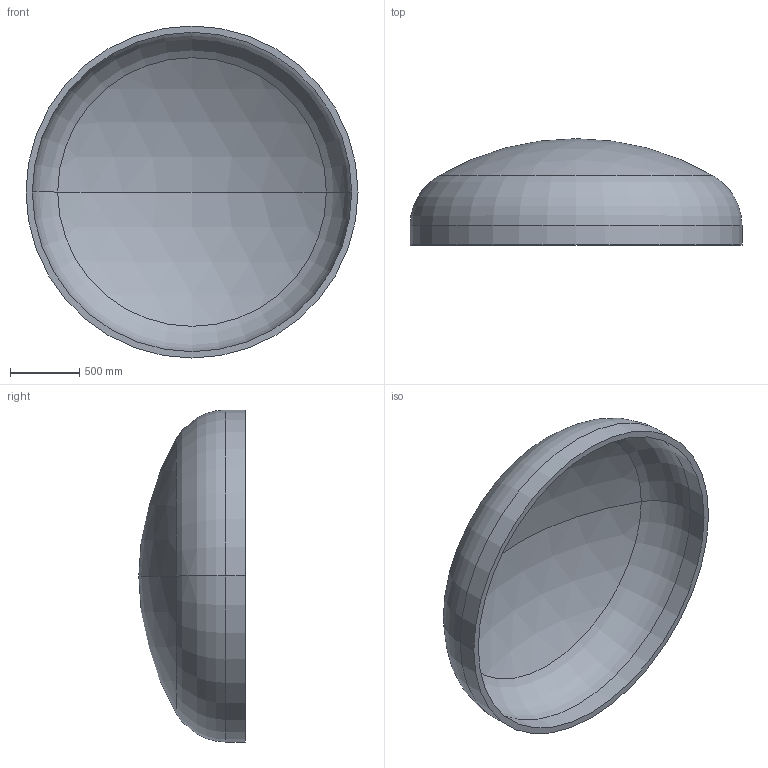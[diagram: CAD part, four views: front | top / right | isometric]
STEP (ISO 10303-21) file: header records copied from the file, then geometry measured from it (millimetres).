
FILE_DESCRIPTION (( 'STEP AP203' ), '1' );
FILE_NAME ('DIN 28013 Korbbogenform_-_Boden DIN 28013 - 2400 x 140 - I - s=46.step', '2016-07-01T15:24:29', ( '' ), ( '' ), 'SwSTEP 2.0', 'SolidWorks 2013', '' );
FILE_SCHEMA (( 'CONFIG_CONTROL_DESIGN' ));
Length unit declared in the file: millimetre
Products named in the file (1): DIN 28013 Korbbogenform_-_Boden DIN 28013 - 2400 x 140 - I - s=46
Bounding box: 2400 x 768.9 x 2400 mm (x, y, z)
Volume: 328714758.3 mm3; surface area: 14636557.4 mm2
Topology: 1 solids, 1 shells, 13 faces, 24 edges, 14 vertices
Faces by surface type: torus 4, cylinder 4, sphere 4, plane 1
Entity records: 407 total; most frequent: DIRECTION 72, CARTESIAN_POINT 52, ORIENTED_EDGE 48, AXIS2_PLACEMENT_3D 34, EDGE_CURVE 24, CIRCLE 20, EDGE_LOOP 14, VERTEX_POINT 14
